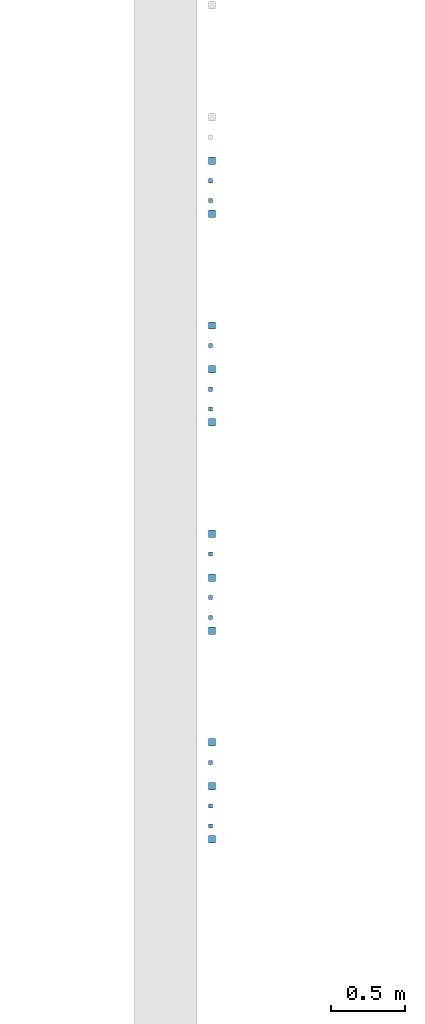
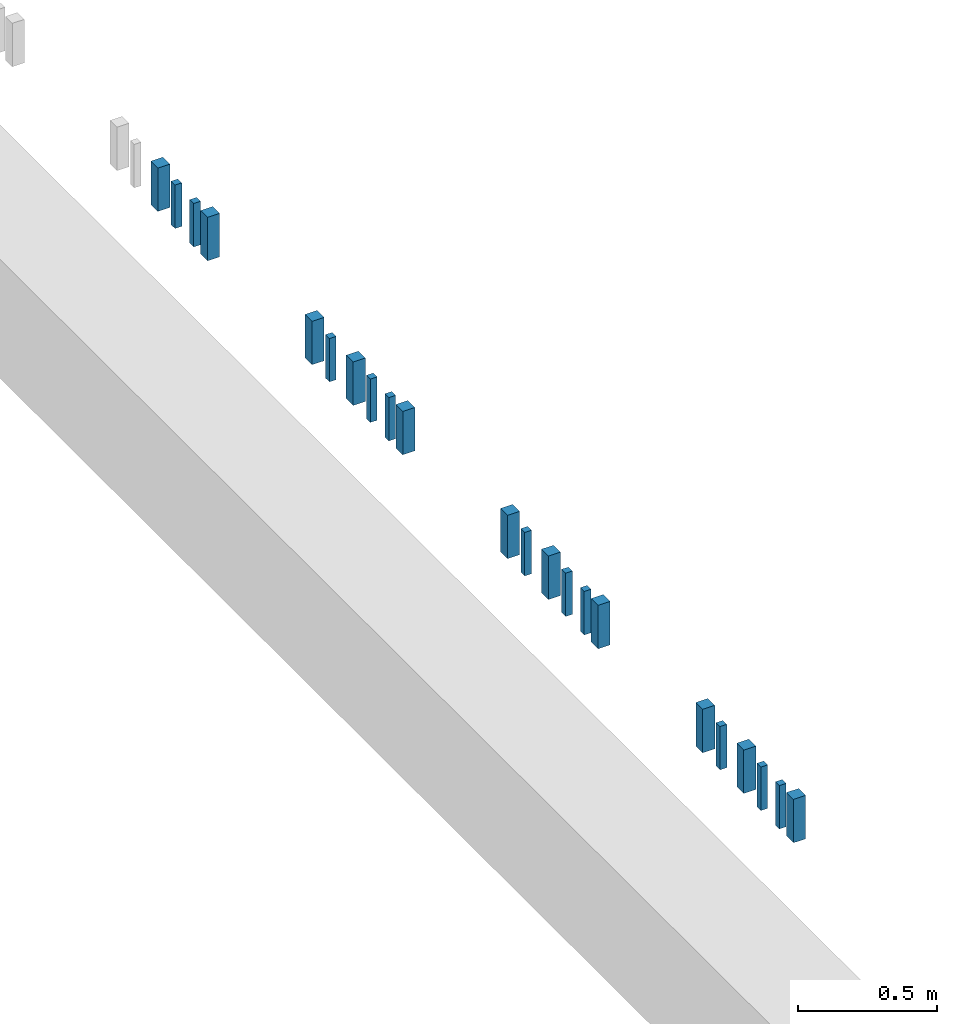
# One storey, part 85 of 124: 22 walls.
"""IFC2X3 building model written with IfcOpenShell, lengths in millimetres."""

from ifc_helpers import new_model, entity, si_unit, converted_unit, derived_unit, money_unit, direction, frame, origin_with_axes, place, context, subcontext, project, spatial, faceted_brep, material, type_object, element, save


model = new_model("IFC2X3")

# Units and contexts
model_context = context("Model", 3, precision=1e-05, world=origin_with_axes(), true_north=direction((0.0, 1.0)))
body_context = subcontext(model_context, "Body", "Model", "MODEL_VIEW")
ifc_project = project(units=[si_unit("LENGTHUNIT", "METRE", prefix="MILLI"), si_unit("AREAUNIT", "SQUARE_METRE"), si_unit("VOLUMEUNIT", "CUBIC_METRE"), converted_unit("PLANEANGLEUNIT", "DEGREE", entity("IfcPlaneAngleMeasure", 0.0174532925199), si_unit("PLANEANGLEUNIT", "RADIAN"), dimensions=[0, 0, 0, 0, 0, 0, 0]), si_unit("SOLIDANGLEUNIT", "STERADIAN"), money_unit("EUR"), converted_unit("TIMEUNIT", "Year", entity("IfcTimeMeasure", 31556926.0), si_unit("TIMEUNIT", "SECOND"), dimensions=[0, 0, 1, 0, 0, 0, 0]), si_unit("MASSUNIT", "GRAM", prefix="KILO"), si_unit("THERMODYNAMICTEMPERATUREUNIT", "DEGREE_CELSIUS"), si_unit("LUMINOUSINTENSITYUNIT", "LUMEN"), si_unit("ENERGYUNIT", "JOULE", prefix="MEGA"), derived_unit("THERMALCONDUCTANCEUNIT", [(si_unit("POWERUNIT", "WATT"), 1), (si_unit("LENGTHUNIT", "METRE"), -1), (si_unit("THERMODYNAMICTEMPERATUREUNIT", "KELVIN"), -1)]), derived_unit("SPECIFICHEATCAPACITYUNIT", [(si_unit("ENERGYUNIT", "JOULE"), 1), (si_unit("MASSUNIT", "GRAM", prefix="KILO"), -1), (si_unit("THERMODYNAMICTEMPERATUREUNIT", "KELVIN"), -1)]), derived_unit("MASSDENSITYUNIT", [(si_unit("MASSUNIT", "GRAM", prefix="KILO"), 1), (si_unit("VOLUMEUNIT", "CUBIC_METRE"), -1)])], contexts=[model_context])

# Site, building, storey
site_placement = place(None, origin_with_axes())
site = spatial("IfcSite", under=ifc_project, at=site_placement, Name="Site", CompositionType="ELEMENT")
building_placement = place(site_placement, origin_with_axes())
building = spatial("IfcBuilding", under=site, at=building_placement, Name="Building", CompositionType="ELEMENT")
storey_placement = place(building_placement, frame((0.0, 0.0, -1615.0), z_axis=(0.0, 0.0, 1.0), x_axis=(1.0, 0.0, 0.0)))
storey = spatial("IfcBuildingStorey", under=building, at=storey_placement, Name="0  korrus", CompositionType="ELEMENT", Elevation=-1615.0)

# Walls
ifc_material = material(Name="Site specified")
wall_type = type_object("IfcWallType", Name="Puitfassaadi ribistik", PredefinedType="NOTDEFINED")
wall_1_placement = place(storey_placement, frame((139811.999995, 58674.9818039, 1715.00000015), z_axis=(0.0, 0.0, 1.0), x_axis=(5.16795808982e-08, -1.0, 0.0)))
element("IfcWall", 1, at=wall_1_placement, inside=storey, type_object=wall_type, material=ifc_material, Name="Site specified", context=body_context, shape_type="Brep", body=[
    faceted_brep([(25.0, 25.0, 190.0), (25.0, 25.0, 0.0), (-25.0, 25.0, 0.0), (-25.0, 25.0, 190.0), (25.0, -25.0, 190.0), (25.0, -25.0, 0.0), (-25.0, -25.0, 0.0), (-25.0, -25.0, 190.0)], [[[0, 1, 2, 3]], [[4, 5, 1, 0]], [[2, 1, 5, 6]], [[3, 2, 6, 7]], [[4, 0, 3, 7]], [[7, 6, 5, 4]]]),
])
for number, where, z_axis, x_axis, name in (
    (2, (139801.000002, 58539.9793129, 1715.00000015), (0.0, 0.0, 1.0), (5.16795808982e-08, -1.0, 0.0), "Site specified"),
    (3, (139801.000024, 58113.9793426, 1715.00000015), (0.0, 0.0, 1.0), (5.16795808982e-08, -1.0, 0.0), "Site specified"),
    (4, (139801.000017, 58246.9793417, 1715.00000015), (0.0, 0.0, 1.0), (5.16795808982e-08, -1.0, 0.0), "Site specified"),
):
    element("IfcWall", number, at=place(storey_placement, frame(where, z_axis=z_axis, x_axis=x_axis)), inside=storey, type_object=wall_type, material=ifc_material, Name=name, context=body_context, shape_type="Brep", body=[
        faceted_brep([(14.0, 14.0, 190.0), (14.0, 14.0, 0.0), (-14.0, 14.0, 0.0), (-14.0, 14.0, 190.0), (14.0, -14.0, 190.0), (14.0, -14.0, 0.0), (-14.0, -14.0, 0.0), (-14.0, -14.0, 190.0)], [[[0, 1, 2, 3]], [[4, 5, 1, 0]], [[2, 1, 5, 6]], [[3, 2, 6, 7]], [[4, 0, 3, 7]], [[7, 6, 5, 4]]]),
    ])
for number, where, z_axis, x_axis, name in (
    (5, (139812.000029, 58024.9761727, 1715.00000015), (0.0, 0.0, 1.0), (5.16795808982e-08, -1.0, 0.0), "Site specified"),
    (6, (139812.00001, 58380.9818061, 1715.00000015), (0.0, 0.0, 1.0), (5.16795808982e-08, -1.0, 0.0), "Site specified"),
    (7, (139811.999995, 60074.9818039, 1715.00000015), (0.0, 0.0, 1.0), (5.16795808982e-08, -1.0, 0.0), "Site specified"),
):
    element("IfcWall", number, at=place(storey_placement, frame(where, z_axis=z_axis, x_axis=x_axis)), inside=storey, type_object=wall_type, material=ifc_material, Name=name, context=body_context, shape_type="Brep", body=[
        faceted_brep([(25.0, 25.0, 190.0), (25.0, 25.0, 0.0), (-25.0, 25.0, 0.0), (-25.0, 25.0, 190.0), (25.0, -25.0, 190.0), (25.0, -25.0, 0.0), (-25.0, -25.0, 0.0), (-25.0, -25.0, 190.0)], [[[0, 1, 2, 3]], [[4, 5, 1, 0]], [[2, 1, 5, 6]], [[3, 2, 6, 7]], [[4, 0, 3, 7]], [[7, 6, 5, 4]]]),
    ])
for number, where, z_axis, x_axis, name in (
    (8, (139801.000002, 59939.9793129, 1715.00000015), (0.0, 0.0, 1.0), (5.16795808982e-08, -1.0, 0.0), "Site specified"),
    (9, (139801.000024, 59513.9793426, 1715.00000015), (0.0, 0.0, 1.0), (5.16795808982e-08, -1.0, 0.0), "Site specified"),
    (10, (139801.000017, 59646.9793417, 1715.00000015), (0.0, 0.0, 1.0), (5.16795808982e-08, -1.0, 0.0), "Site specified"),
):
    element("IfcWall", number, at=place(storey_placement, frame(where, z_axis=z_axis, x_axis=x_axis)), inside=storey, type_object=wall_type, material=ifc_material, Name=name, context=body_context, shape_type="Brep", body=[
        faceted_brep([(14.0, 14.0, 190.0), (14.0, 14.0, 0.0), (-14.0, 14.0, 0.0), (-14.0, 14.0, 190.0), (14.0, -14.0, 190.0), (14.0, -14.0, 0.0), (-14.0, -14.0, 0.0), (-14.0, -14.0, 190.0)], [[[0, 1, 2, 3]], [[4, 5, 1, 0]], [[2, 1, 5, 6]], [[3, 2, 6, 7]], [[4, 0, 3, 7]], [[7, 6, 5, 4]]]),
    ])
for number, where, z_axis, x_axis, name in (
    (11, (139812.000029, 59424.9761727, 1715.00000015), (0.0, 0.0, 1.0), (5.16795808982e-08, -1.0, 0.0), "Site specified"),
    (12, (139812.00001, 59780.9818061, 1715.00000015), (0.0, 0.0, 1.0), (5.16795808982e-08, -1.0, 0.0), "Site specified"),
):
    element("IfcWall", number, at=place(storey_placement, frame(where, z_axis=z_axis, x_axis=x_axis)), inside=storey, type_object=wall_type, material=ifc_material, Name=name, context=body_context, shape_type="Brep", body=[
        faceted_brep([(25.0, 25.0, 190.0), (25.0, 25.0, 0.0), (-25.0, 25.0, 0.0), (-25.0, 25.0, 190.0), (25.0, -25.0, 190.0), (25.0, -25.0, 0.0), (-25.0, -25.0, 0.0), (-25.0, -25.0, 190.0)], [[[0, 1, 2, 3]], [[4, 5, 1, 0]], [[2, 1, 5, 6]], [[3, 2, 6, 7]], [[4, 0, 3, 7]], [[7, 6, 5, 4]]]),
    ])
wall_2_placement = place(storey_placement, frame((139801.000037, 61339.9975209, 1715.00000015), z_axis=(0.0, 0.0, 1.0), x_axis=(5.16795808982e-08, -1.0, 0.0)))
element("IfcWall", 13, at=wall_2_placement, inside=storey, type_object=wall_type, material=ifc_material, Name="Site specified", context=body_context, shape_type="Brep", body=[
    faceted_brep([(14.0, 14.0, 190.0), (14.0, 14.0, 0.0), (-14.0, 14.0, 0.0), (-14.0, 14.0, 190.0), (14.0, -14.0, 190.0), (14.0, -14.0, 0.0), (-14.0, -14.0, 0.0), (-14.0, -14.0, 190.0)], [[[0, 1, 2, 3]], [[4, 5, 1, 0]], [[2, 1, 5, 6]], [[3, 2, 6, 7]], [[4, 0, 3, 7]], [[7, 6, 5, 4]]]),
])
wall_3_placement = place(storey_placement, frame((139812.00003, 61475.0000119, 1715.00000015), z_axis=(0.0, 0.0, 1.0), x_axis=(5.16795808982e-08, -1.0, 0.0)))
element("IfcWall", 14, at=wall_3_placement, inside=storey, type_object=wall_type, material=ifc_material, Name="Site specified", context=body_context, shape_type="Brep", body=[
    faceted_brep([(25.0, 25.0, 190.0), (25.0, 25.0, 0.0), (-25.0, 25.0, 0.0), (-25.0, 25.0, 190.0), (25.0, -25.0, 190.0), (25.0, -25.0, 0.0), (-25.0, -25.0, 0.0), (-25.0, -25.0, 190.0)], [[[0, 1, 2, 3]], [[4, 5, 1, 0]], [[2, 1, 5, 6]], [[3, 2, 6, 7]], [[4, 0, 3, 7]], [[7, 6, 5, 4]]]),
])
for number, where, z_axis, x_axis, name in (
    (15, (139801.000059, 60913.9975506, 1715.00000015), (0.0, 0.0, 1.0), (5.16795808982e-08, -1.0, 0.0), "Site specified"),
    (16, (139801.000052, 61046.9975498, 1715.00000015), (0.0, 0.0, 1.0), (5.16795808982e-08, -1.0, 0.0), "Site specified"),
):
    element("IfcWall", number, at=place(storey_placement, frame(where, z_axis=z_axis, x_axis=x_axis)), inside=storey, type_object=wall_type, material=ifc_material, Name=name, context=body_context, shape_type="Brep", body=[
        faceted_brep([(14.0, 14.0, 190.0), (14.0, 14.0, 0.0), (-14.0, 14.0, 0.0), (-14.0, 14.0, 190.0), (14.0, -14.0, 190.0), (14.0, -14.0, 0.0), (-14.0, -14.0, 0.0), (-14.0, -14.0, 190.0)], [[[0, 1, 2, 3]], [[4, 5, 1, 0]], [[2, 1, 5, 6]], [[3, 2, 6, 7]], [[4, 0, 3, 7]], [[7, 6, 5, 4]]]),
    ])
for number, where, z_axis, x_axis, name in (
    (17, (139812.000064, 60824.9943808, 1715.00000015), (0.0, 0.0, 1.0), (5.16795808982e-08, -1.0, 0.0), "Site specified"),
    (18, (139812.000046, 61181.0000141, 1715.00000015), (0.0, 0.0, 1.0), (5.16795808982e-08, -1.0, 0.0), "Site specified"),
):
    element("IfcWall", number, at=place(storey_placement, frame(where, z_axis=z_axis, x_axis=x_axis)), inside=storey, type_object=wall_type, material=ifc_material, Name=name, context=body_context, shape_type="Brep", body=[
        faceted_brep([(25.0, 25.0, 190.0), (25.0, 25.0, 0.0), (-25.0, 25.0, 0.0), (-25.0, 25.0, 190.0), (25.0, -25.0, 190.0), (25.0, -25.0, 0.0), (-25.0, -25.0, 0.0), (-25.0, -25.0, 190.0)], [[[0, 1, 2, 3]], [[4, 5, 1, 0]], [[2, 1, 5, 6]], [[3, 2, 6, 7]], [[4, 0, 3, 7]], [[7, 6, 5, 4]]]),
    ])
for number, where, z_axis, x_axis, name in (
    (19, (139801.000017, 62446.9793417, 1715.00000015), (0.0, 0.0, 1.0), (5.16795808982e-08, -1.0, 0.0), "Site specified"),
    (20, (139801.000024, 62313.9793426, 1715.00000015), (0.0, 0.0, 1.0), (5.16795808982e-08, -1.0, 0.0), "Site specified"),
):
    element("IfcWall", number, at=place(storey_placement, frame(where, z_axis=z_axis, x_axis=x_axis)), inside=storey, type_object=wall_type, material=ifc_material, Name=name, context=body_context, shape_type="Brep", body=[
        faceted_brep([(14.0, 14.0, 190.0), (14.0, 14.0, 0.0), (-14.0, 14.0, 0.0), (-14.0, 14.0, 190.0), (14.0, -14.0, 190.0), (14.0, -14.0, 0.0), (-14.0, -14.0, 0.0), (-14.0, -14.0, 190.0)], [[[0, 1, 2, 3]], [[4, 5, 1, 0]], [[2, 1, 5, 6]], [[3, 2, 6, 7]], [[4, 0, 3, 7]], [[7, 6, 5, 4]]]),
    ])
for number, where, z_axis, x_axis, name in (
    (21, (139812.000028, 62224.9761727, 1715.00000015), (0.0, 0.0, 1.0), (5.16795808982e-08, -1.0, 0.0), "Site specified"),
    (22, (139812.00001, 62580.9818061, 1715.00000015), (0.0, 0.0, 1.0), (5.16795808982e-08, -1.0, 0.0), "Site specified"),
):
    element("IfcWall", number, at=place(storey_placement, frame(where, z_axis=z_axis, x_axis=x_axis)), inside=storey, type_object=wall_type, material=ifc_material, Name=name, context=body_context, shape_type="Brep", body=[
        faceted_brep([(25.0, 25.0, 190.0), (25.0, 25.0, 0.0), (-25.0, 25.0, 0.0), (-25.0, 25.0, 190.0), (25.0, -25.0, 190.0), (25.0, -25.0, 0.0), (-25.0, -25.0, 0.0), (-25.0, -25.0, 190.0)], [[[0, 1, 2, 3]], [[4, 5, 1, 0]], [[2, 1, 5, 6]], [[3, 2, 6, 7]], [[4, 0, 3, 7]], [[7, 6, 5, 4]]]),
    ])

save(model, "model.ifc")
